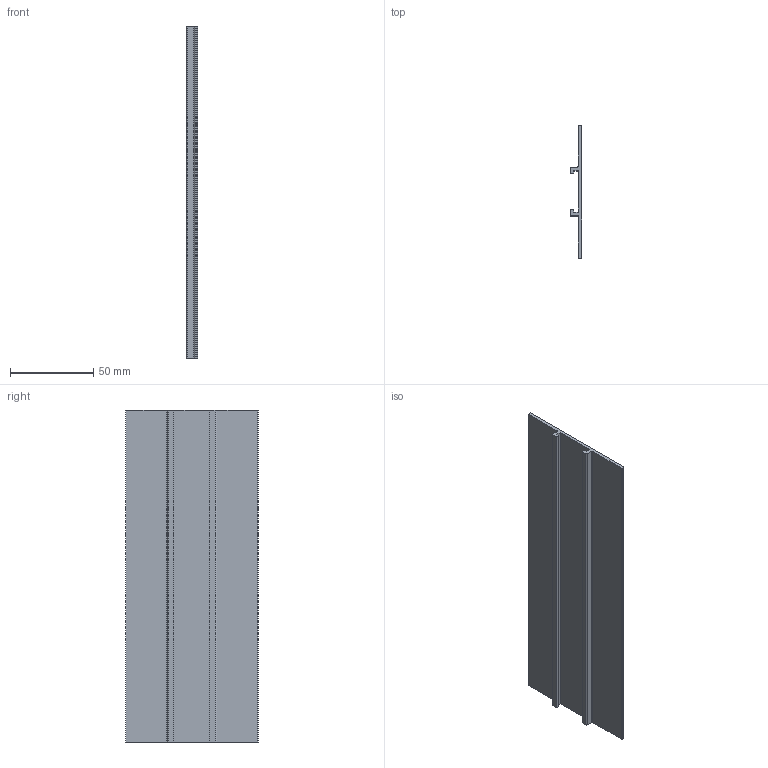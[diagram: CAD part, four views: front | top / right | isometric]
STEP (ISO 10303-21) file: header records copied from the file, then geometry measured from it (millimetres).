
FILE_DESCRIPTION((''),'2;1');
FILE_NAME('C:\Vault Klient\Projekt\Step\300-3047.stp','2009-12-07T14:42:17',('Mathias'),(''),'Autodesk Inventor 2010','Autodesk Inventor 2010','');
FILE_SCHEMA(('CONFIG_CONTROL_DESIGN'));
Length unit declared in the file: millimetre
Products named in the file (1): 300-3047-01
Bounding box: 6.68 x 80 x 200 mm (x, y, z)
Volume: 37100 mm3; surface area: 37894.5 mm2
Topology: 1 solids, 1 shells, 26 faces, 72 edges, 48 vertices
Faces by surface type: plane 18, cylinder 8
Entity records: 858 total; most frequent: CARTESIAN_POINT 147, ORIENTED_EDGE 144, DIRECTION 142, EDGE_CURVE 72, VECTOR 56, LINE 56, VERTEX_POINT 48, AXIS2_PLACEMENT_3D 43
